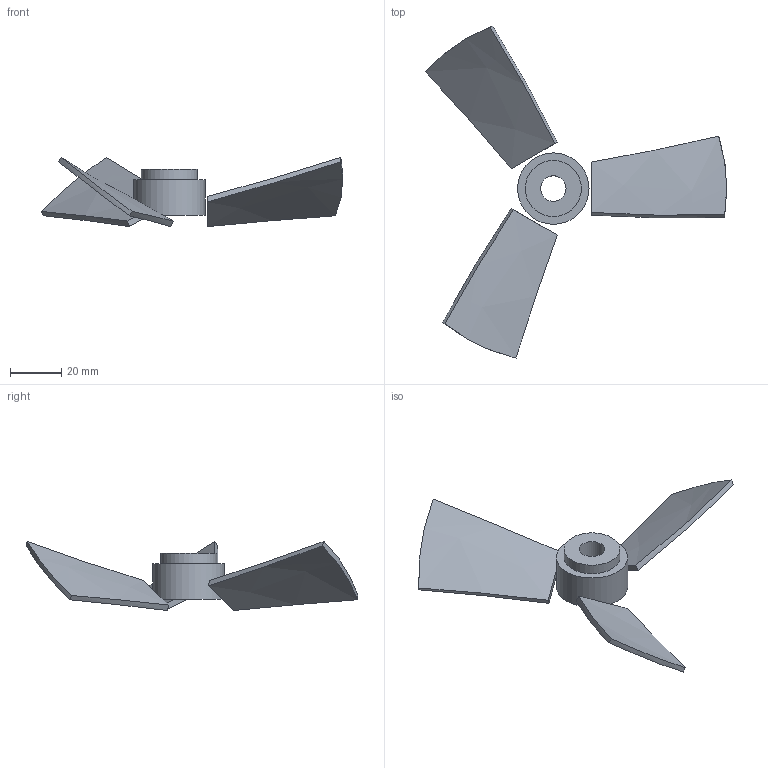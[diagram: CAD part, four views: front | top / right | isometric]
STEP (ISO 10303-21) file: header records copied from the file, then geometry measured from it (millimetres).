
FILE_DESCRIPTION(('Open CASCADE Model'),'2;1');
FILE_NAME('Open CASCADE Shape Model','2026-10-27T17:05:22',('Author'),( 'Open CASCADE'),'Open CASCADE STEP processor 8.0','build123d', 'Unknown');
FILE_SCHEMA(('AUTOMOTIVE_DESIGN { 1 0 10303 214 1 1 1 1 }'));
Length unit declared in the file: millimetre
Products named in the file (1): COMPOUND
Bounding box: 118.21 x 130.15 x 27.11 mm (x, y, z)
Volume: 18938.4 mm3; surface area: 13763.9 mm2
Topology: 4 solids, 4 shells, 24 faces, 45 edges, 30 vertices
Faces by surface type: bspline 12, plane 6, cylinder 6
Full cylindrical faces by diameter (mm): 10 x1, 22 x1, 28 x1
Entity records: 1572 total; most frequent: CARTESIAN_POINT 754, DIRECTION 95, ORIENTED_EDGE 90, PCURVE 90, DEFINITIONAL_REPRESENTATION 90, B_SPLINE_CURVE_WITH_KNOTS 72, LINE 51, VECTOR 51
